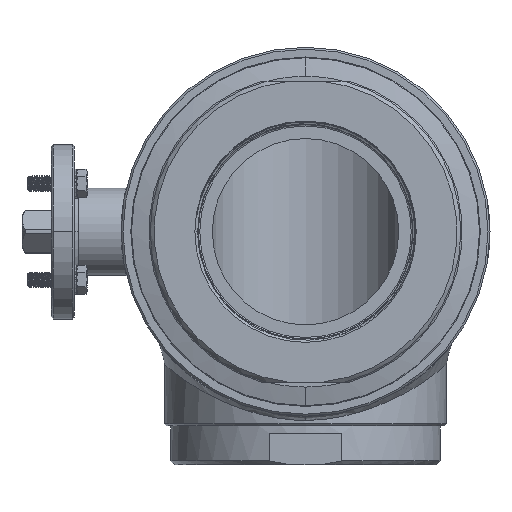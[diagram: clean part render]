
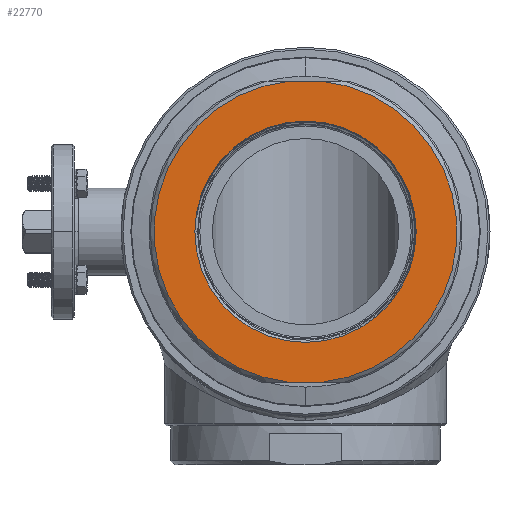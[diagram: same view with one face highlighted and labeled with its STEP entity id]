
A CAD part, left-side view. The second image highlights one B-rep face of the part: STEP entity #22770.
In plain terms, the highlighted planar face has unit normal (-1, 0, 0).
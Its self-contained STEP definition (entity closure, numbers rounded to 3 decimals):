
#19957=CARTESIAN_POINT('',(-120.,0.,
0.));
#19958=DIRECTION('',(1.,0.,0.));
#19959=DIRECTION('',(0.,-1.,0.));
#19960=AXIS2_PLACEMENT_3D('',#19957,#19958,#19959);
#19962=CARTESIAN_POINT('',(-120.,0.,0.));
#19963=DIRECTION('',(1.,0.,0.));
#19964=DIRECTION('',(0.,1.,0.));
#19965=AXIS2_PLACEMENT_3D('',#19962,#19963,#19964);
#19967=CARTESIAN_POINT('',(-120.,0.,0.));
#19968=DIRECTION('',(1.,0.,0.));
#19969=DIRECTION('',(0.,0.113,-0.994));
#19970=AXIS2_PLACEMENT_3D('',#19967,#19968,#19969);
#19972=DIRECTION('',(0.,1.,0.));
#19973=VECTOR('',#19972,17.635);
#19974=CARTESIAN_POINT('',(-120.,-8.818,
77.5));
#19975=LINE('',#19974,#19973);
#19976=CARTESIAN_POINT('',(-120.,0.,0.));
#19977=DIRECTION('',(1.,0.,0.));
#19978=DIRECTION('',(0.,-0.113,0.994));
#19979=AXIS2_PLACEMENT_3D('',#19976,#19977,#19978);
#19981=DIRECTION('',(0.,1.,0.));
#19982=VECTOR('',#19981,17.635);
#19983=CARTESIAN_POINT('',(-120.,-8.818,
-77.5));
#19984=LINE('',#19983,#19982);
#22360=CARTESIAN_POINT('',(-120.,8.818,
77.5));
#22396=CARTESIAN_POINT('',(-120.,-8.818,
-77.5));
#22654=CARTESIAN_POINT('',(-120.,-57.,0.));
#22655=CARTESIAN_POINT('',(-120.,57.,
0.));
#22656=VERTEX_POINT('',#22654);
#22657=VERTEX_POINT('',#22655);
#22659=VERTEX_POINT('',#22360);
#22660=CARTESIAN_POINT('',(-120.,8.818,-77.5));
#22661=VERTEX_POINT('',#22660);
#22664=VERTEX_POINT('',#22396);
#22665=CARTESIAN_POINT('',(-120.,-8.818,77.5));
#22666=VERTEX_POINT('',#22665);
#22749=CARTESIAN_POINT('',(-120.,0.,0.));
#22750=DIRECTION('',(-1.,0.,0.));
#22751=DIRECTION('',(0.,1.,0.));
#22752=AXIS2_PLACEMENT_3D('',#22749,#22750,#22751);
#22753=PLANE('',#22752);
#22755=ORIENTED_EDGE('',*,*,#22754,.T.);
#22757=ORIENTED_EDGE('',*,*,#22756,.F.);
#22759=ORIENTED_EDGE('',*,*,#22758,.T.);
#22761=ORIENTED_EDGE('',*,*,#22760,.T.);
#22762=EDGE_LOOP('',(#22755,#22757,#22759,#22761));
#22763=FACE_OUTER_BOUND('',#22762,.F.);
#22765=ORIENTED_EDGE('',*,*,#22764,.F.);
#22767=ORIENTED_EDGE('',*,*,#22766,.F.);
#22768=EDGE_LOOP('',(#22765,#22767));
#22769=FACE_BOUND('',#22768,.F.);
#22770=ADVANCED_FACE('',(#22763,#22769),#22753,.T.);
#19961=CIRCLE('',#19960,57.);
#19966=CIRCLE('',#19965,57.);
#19971=CIRCLE('',#19970,78.);
#19980=CIRCLE('',#19979,78.);
#22754=EDGE_CURVE('',#22661,#22659,#19971,.T.);
#22756=EDGE_CURVE('',#22666,#22659,#19975,.T.);
#22758=EDGE_CURVE('',#22666,#22664,#19980,.T.);
#22760=EDGE_CURVE('',#22664,#22661,#19984,.T.);
#22764=EDGE_CURVE('',#22656,#22657,#19961,.T.);
#22766=EDGE_CURVE('',#22657,#22656,#19966,.T.);
